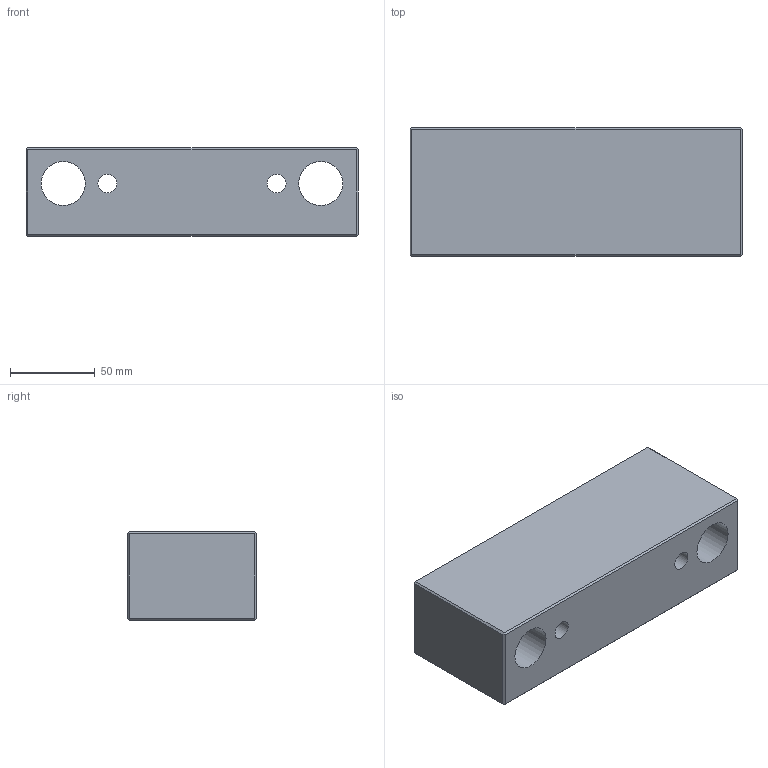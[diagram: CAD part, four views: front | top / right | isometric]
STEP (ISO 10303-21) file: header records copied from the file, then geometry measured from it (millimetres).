
FILE_DESCRIPTION(/* description */ ('STEP AP214'),/* implementation_level */ '2;1');
FILE_NAME(/* name */ 'KM0421961960761730',/* time_stamp */ '2026-07-08T16:03:04+02:00',/* author */ ('License CC BY-ND 4.0'),/* organization */ ('CADENAS'),/* preprocessor_version */ 'ST-DEVELOPER v20',/* originating_system */ 'PARTsolutions',/* authorisation */ ' ');
FILE_SCHEMA (('AUTOMOTIVE_DESIGN {1 0 10303 214 3 1 1}'));
Length unit declared in the file: millimetre
Products named in the file (1): KM0421961960761730
Bounding box: 196 x 76 x 52 mm (x, y, z)
Volume: 678803.7 mm3; surface area: 72483.8 mm2
Topology: 1 solids, 1 shells, 22 faces, 60 edges, 40 vertices
Faces by surface type: plane 18, cylinder 4
Full cylindrical faces by diameter (mm): 11 x2, 26 x2
Entity records: 718 total; most frequent: CARTESIAN_POINT 119, ORIENTED_EDGE 112, DIRECTION 110, EDGE_CURVE 56, LINE 48, VECTOR 48, VERTEX_POINT 40, EDGE_LOOP 34
